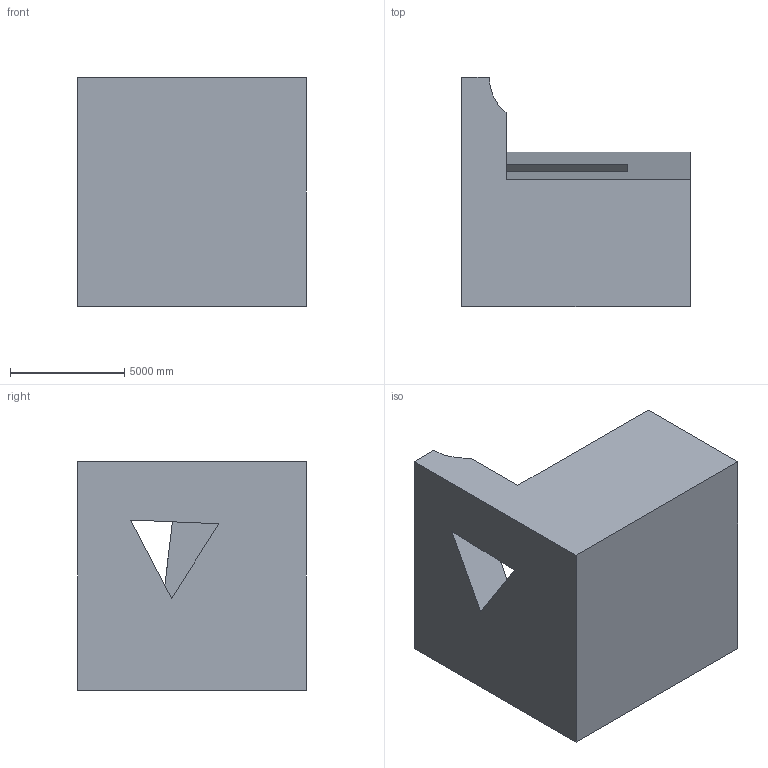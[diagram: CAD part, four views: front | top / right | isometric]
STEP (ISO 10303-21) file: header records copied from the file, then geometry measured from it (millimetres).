
FILE_DESCRIPTION (( 'STEP AP203' ), '1' );
FILE_NAME ('1354.STEP', '2022-08-18T14:00:35', ( 'user' ), ( '' ), 'SwSTEP 2.0', 'SolidWorks 2021', '' );
FILE_SCHEMA (( 'CONFIG_CONTROL_DESIGN' ));
Length unit declared in the file: centimetre
Products named in the file (1): 1354
Bounding box: 10000 x 10000 x 10000 mm (x, y, z)
Volume: 634929748930.6 mm3; surface area: 586044255.2 mm2
Topology: 1 solids, 1 shells, 16 faces, 42 edges, 28 vertices
Faces by surface type: plane 13, cylinder 3
Entity records: 573 total; most frequent: CARTESIAN_POINT 87, ORIENTED_EDGE 84, DIRECTION 82, EDGE_CURVE 42, LINE 36, VECTOR 36, VERTEX_POINT 28, AXIS2_PLACEMENT_3D 23
